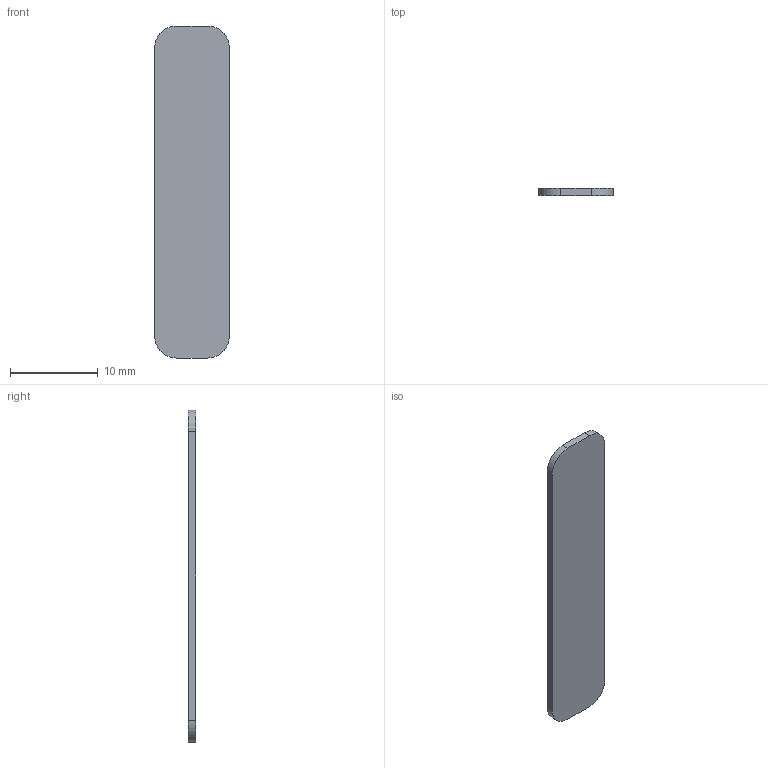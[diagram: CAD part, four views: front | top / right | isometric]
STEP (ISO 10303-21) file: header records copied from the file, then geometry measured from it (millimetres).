
FILE_DESCRIPTION(/* description */ (''),/* implementation_level */ '2;1');
FILE_NAME(/* name */ 'C:\Users\strothej\Documents\ActualDocuments\MicroscopeParts\TwoPhotonSystem\ScanningMechanics\v28\Drawings\Dichroic_40mm_62mm_5mm_Cover.stp',/* time_stamp */ '2017-06-08T11:10:13-07:00',/* author */ ('strothej'),/* organization */ (''),/* preprocessor_version */ 'ST-DEVELOPER v16.1',/* originating_system */ 'Autodesk Inventor 2016',/* authorisation */ '');
FILE_SCHEMA (('AUTOMOTIVE_DESIGN { 1 0 10303 214 3 1 1 }'));
Length unit declared in the file: millimetre
Products named in the file (1): Dichroic_40mm_62mm_5mm_Cover
Bounding box: 8.5 x 0.81 x 37.8 mm (x, y, z)
Volume: 256.8 mm3; surface area: 703.6 mm2
Topology: 1 solids, 1 shells, 10 faces, 24 edges, 16 vertices
Faces by surface type: plane 6, cylinder 4
Entity records: 320 total; most frequent: DIRECTION 54, CARTESIAN_POINT 51, ORIENTED_EDGE 48, EDGE_CURVE 24, AXIS2_PLACEMENT_3D 19, LINE 16, VECTOR 16, VERTEX_POINT 16
